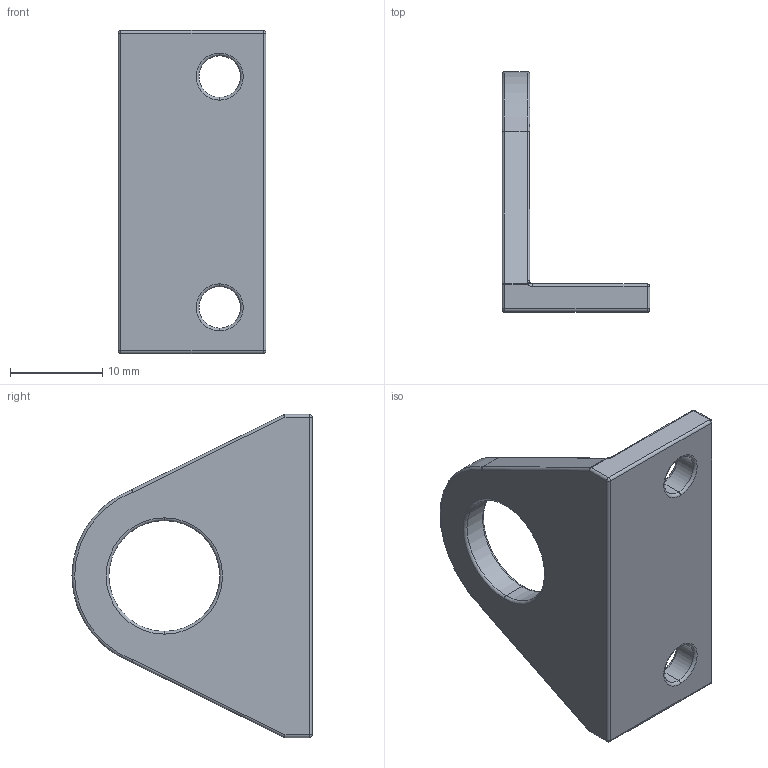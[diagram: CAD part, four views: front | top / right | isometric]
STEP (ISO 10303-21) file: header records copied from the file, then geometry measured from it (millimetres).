
FILE_DESCRIPTION (( 'STEP AP214' ), '1' );
FILE_NAME ('WAB-008 (3D).STEP', '2019-11-12T12:13:41', ( '' ), ( '' ), 'SwSTEP 2.0', 'SolidWorks 2016', '' );
FILE_SCHEMA (( 'AUTOMOTIVE_DESIGN' ));
Length unit declared in the file: millimetre
Products named in the file (1): WAB-008 (3D)
Bounding box: 16 x 26 x 35 mm (x, y, z)
Volume: 2833.2 mm3; surface area: 2417.4 mm2
Topology: 1 solids, 1 shells, 256 faces, 645 edges, 408 vertices
Faces by surface type: plane 143, bspline 54, cylinder 29, torus 20, sphere 10
Entity records: 12113 total; most frequent: CARTESIAN_POINT 4286, ORIENTED_EDGE 1278, DIRECTION 1035, EDGE_CURVE 639, VECTOR 433, LINE 433, VERTEX_POINT 408, AXIS2_PLACEMENT_3D 301
